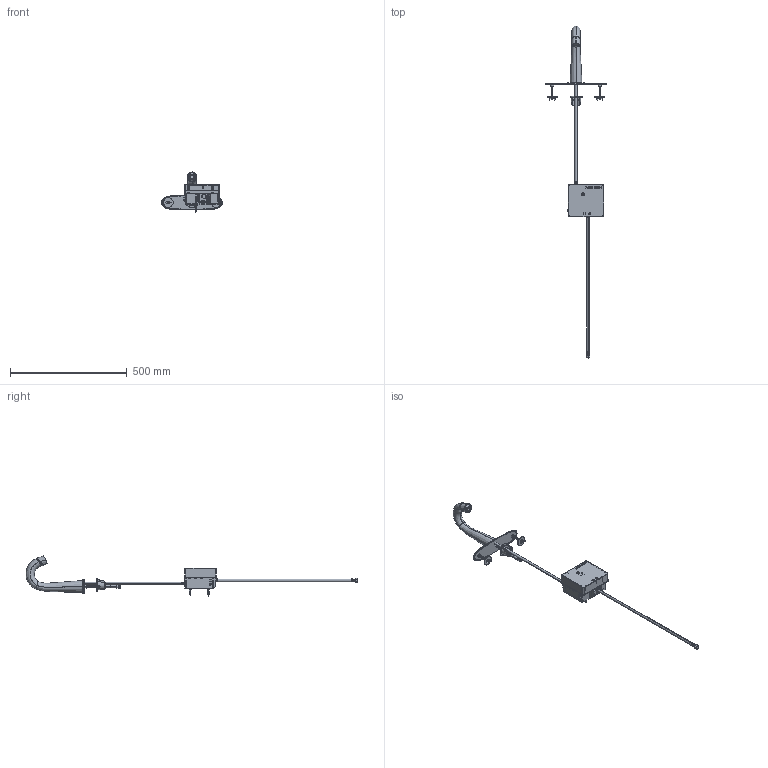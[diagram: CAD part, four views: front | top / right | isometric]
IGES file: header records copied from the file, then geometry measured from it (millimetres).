
Start section:  PTC IGES file: eq-c13a-11abcp_sw0001.igs
Global section: file name: eq-c13a-11abcp_sw0001.igs; native system: Creo Parametric by Parametric Technology Corporation; preprocessor: 2013050; author: jrodriguez; organization: Unknown; date: 20140919.154112; units: inch
Bounding box: 259.04 x 1420.18 x 171.27 mm (x, y, z)
Surface area: 443552.9 mm2 (no closed solid volume)
Topology: 0 solids, 0 shells, 1814 faces, 17712 edges, 24782 vertices
Faces by surface type: bspline 998, revolution 790, extrusion 26
